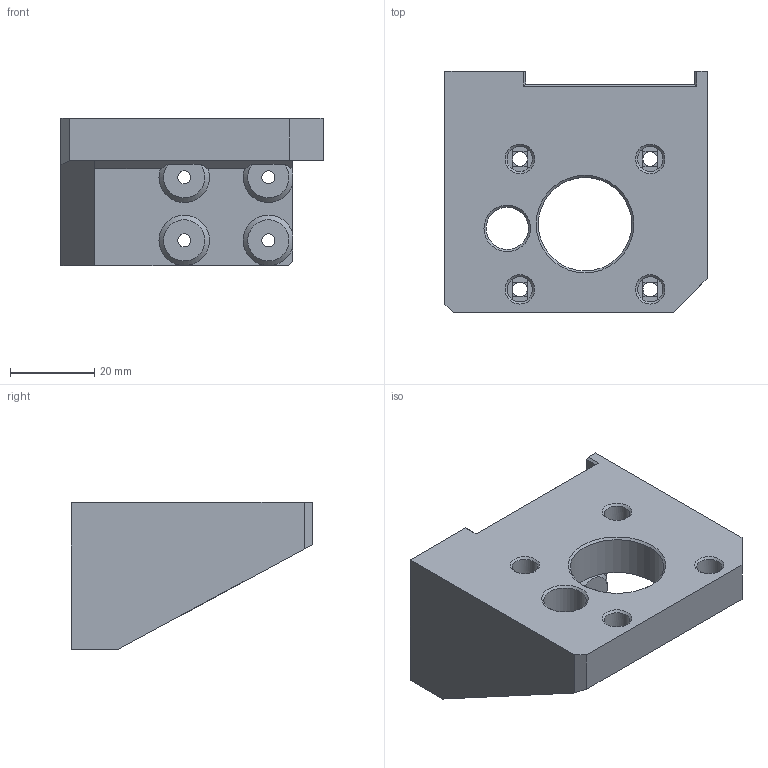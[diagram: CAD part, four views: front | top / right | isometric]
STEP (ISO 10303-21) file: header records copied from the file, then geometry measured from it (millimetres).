
FILE_DESCRIPTION(/* description */ ('STEP AP242','CAx-IF Rec.Pracs.---Representation and Presentation of Product Manufacturing Information (PMI)---4.0---2014-10-13','CAx-IF Rec.Pracs.---3D Tessellated Geometry---0.4---2014-09-14','2;1'),/* implementation_level */ '2;1');
FILE_NAME(/* name */ '64826401f11aaa4f8fbcfe97',/* time_stamp */ '2023-06-08T23:28:01Z',/* author */ (''),/* organization */ (''),/* preprocessor_version */ 'ST-DEVELOPER v19.4',/* originating_system */ ' ',/* authorisation */ ' ');
FILE_SCHEMA (('AP242_MANAGED_MODEL_BASED_3D_ENGINEERING_MIM_LF { 1 0 10303 442 1 1 4 }'));
Length unit declared in the file: metre
Products named in the file (1): Z_Bracket_L_V1
Bounding box: 62.3 x 57.3 x 35 mm (x, y, z)
Volume: 45916 mm3; surface area: 14360.8 mm2
Topology: 1 solids, 1 shells, 104 faces, 275 edges, 173 vertices
Faces by surface type: plane 76, cone 14, cylinder 14
Full cylindrical faces by diameter (mm): 3.1 x4, 3.5 x4, 6 x4, 10.05 x1, 22.2 x1
Entity records: 3076 total; most frequent: CARTESIAN_POINT 535, DIRECTION 520, ORIENTED_EDGE 488, EDGE_CURVE 244, AXIS2_PLACEMENT_3D 177, VERTEX_POINT 168, LINE 166, VECTOR 166
